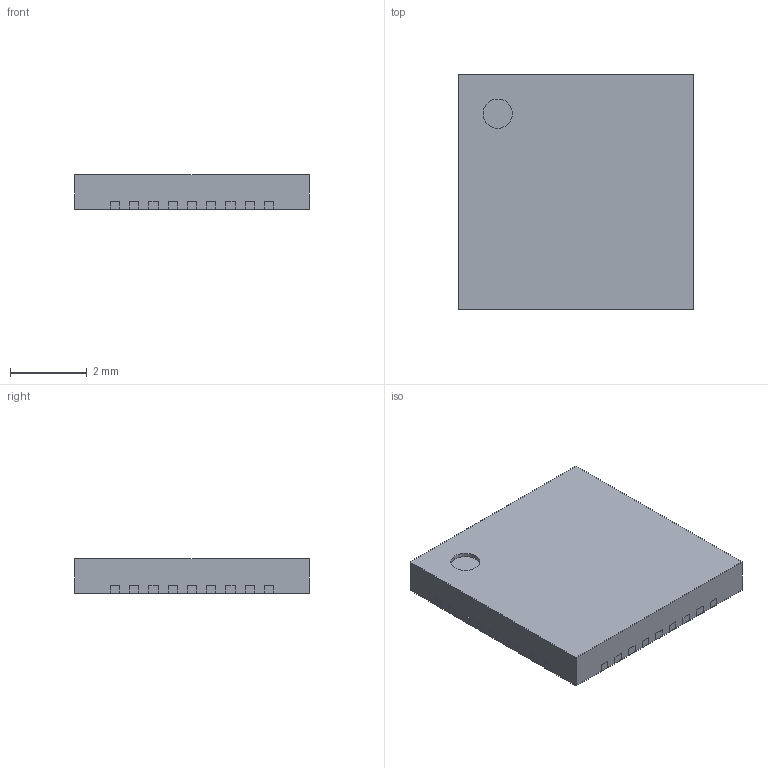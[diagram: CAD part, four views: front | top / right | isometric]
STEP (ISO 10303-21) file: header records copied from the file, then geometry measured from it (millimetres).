
FILE_DESCRIPTION(('Open CASCADE Model'),'2;1');
FILE_NAME('Open CASCADE Shape Model','2022-11-15T17:17:51',('Author'),( 'Open CASCADE'),'Open CASCADE STEP processor 6.8','Open CASCADE 6.8' ,'Unknown');
FILE_SCHEMA(('AUTOMOTIVE_DESIGN { 1 0 10303 214 1 1 1 1 }'));
Length unit declared in the file: millimetre
Products named in the file (7): QFN50P600X600X90_HS-37N.step; Open CASCADE STEP translator 6.8 24.1; Body; Open CASCADE STEP translator 6.8 24.2.1; Thermal_Shape; Pin_Shape; Open CASCADE STEP translator 6.8 24.4.1
Assembly tree (41 placements, depth 3):
  QFN50P600X600X90_HS-37N.step
    Open CASCADE STEP translator 6.8 24.1
    Body
      Open CASCADE STEP translator 6.8 24.2.1
    Thermal_Shape
    Pin_Shape  x36
      Open CASCADE STEP translator 6.8 24.4.1
Bounding box: 6.1 x 6.1 x 0.9 mm (x, y, z)
Volume: 33.5 mm3; surface area: 140.5 mm2
Topology: 38 solids, 39 shells, 520 faces, 1039 edges, 597 vertices
Faces by surface type: plane 519, cylinder 1
Full cylindrical faces by diameter (mm): 0.762 x1
Entity records: 1186 total; most frequent: DIRECTION 206, CARTESIAN_POINT 168, ORIENTED_EDGE 117, AXIS2_PLACEMENT_3D 75, EDGE_CURVE 59, LINE 56, VECTOR 56, PRODUCT_DEFINITION_SHAPE 48
